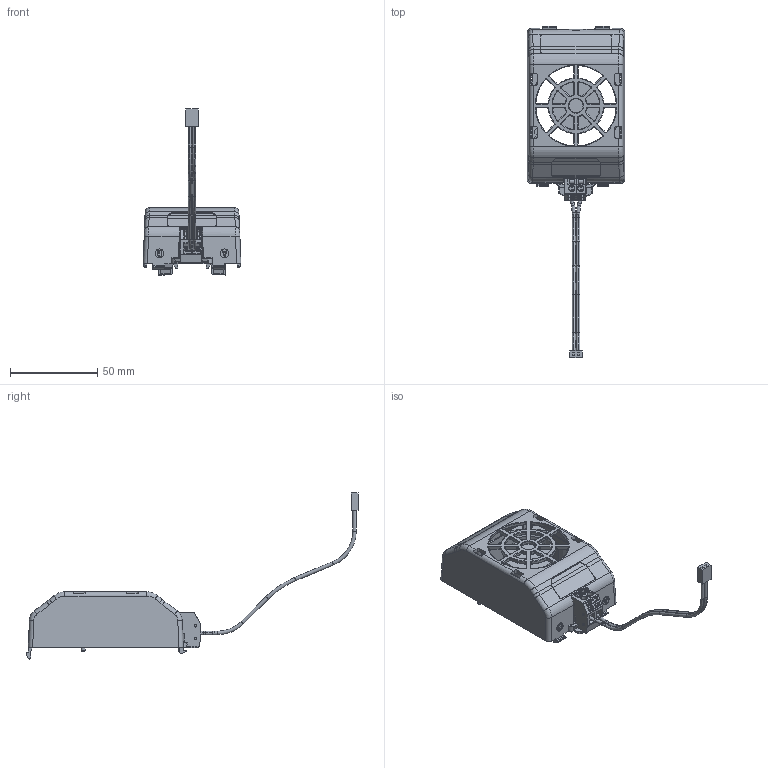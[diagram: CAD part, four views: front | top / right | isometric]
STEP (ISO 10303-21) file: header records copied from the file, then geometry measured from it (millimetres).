
FILE_DESCRIPTION((''),'2;1');
FILE_NAME('PRT0029','2013-09-17T',('dtio'),('Rockwell Automation'),'PRO/ENGINEER BY PARAMETRIC TECHNOLOGY CORPORATION, 2010140','PRO/ENGINEER BY PARAMETRIC TECHNOLOGY CORPORATION, 2010140','');
FILE_SCHEMA(('CONFIG_CONTROL_DESIGN'));
Products named in the file (1): PRT0029
Bounding box: 56 x 189.8 x 94.9 mm (x, y, z)
Volume: 46610.6 mm3; surface area: 46086.7 mm2
Topology: 2 solids, 2 shells, 2314 faces, 6395 edges, 4100 vertices
Faces by surface type: plane 1129, cylinder 698, torus 187, bspline 165, cone 121, sphere 14
Entity records: 80763 total; most frequent: CARTESIAN_POINT 22408, ORIENTED_EDGE 12752, DIRECTION 11653, EDGE_CURVE 6376, VERTEX_POINT 4099, AXIS2_PLACEMENT_3D 3955, VECTOR 3743, LINE 3743
